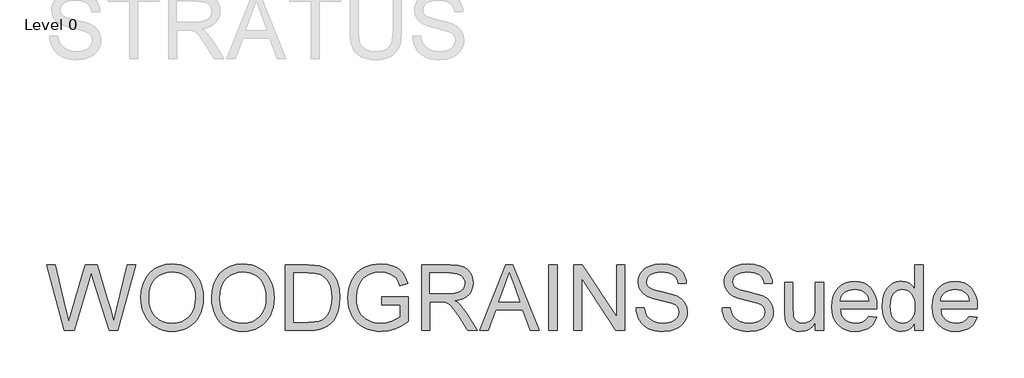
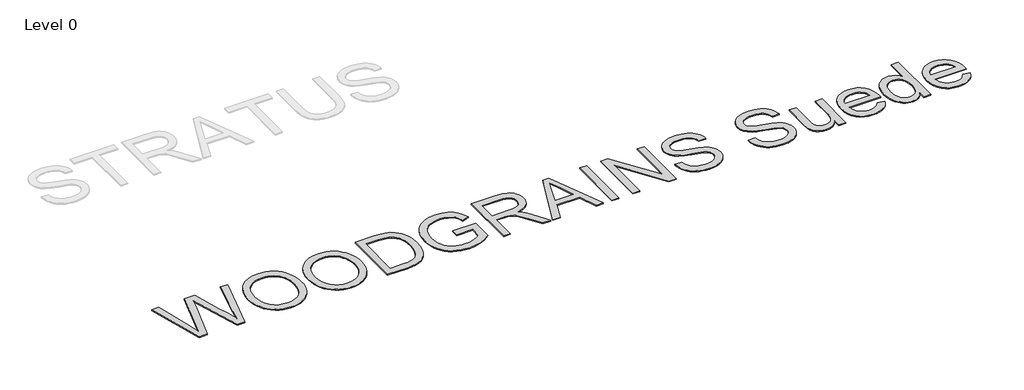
# One storey, part 4 of 7: 1 proxy.
"""IFC4 building model written with IfcOpenShell, lengths in millimetres."""

from ifc_helpers import new_model, si_unit, origin, origin_with_axes, place, context, project, spatial, polyline, outline, extrude, element, save

model = new_model("IFC4")

# Units and contexts
model_context = context("Model", 3, world=origin())
ifc_project = project(units=[si_unit("LENGTHUNIT", "METRE", prefix="MILLI")], contexts=[model_context])

# Site, building, storey
site = spatial("IfcSite", under=ifc_project)
building = spatial("IfcBuilding", under=site)
storey = spatial("IfcBuildingStorey", under=building, Name="Level 0", Elevation=0.0)

# Proxy
placement = place(None, origin())
element("IfcBuildingElementProxy", 1, Name="600mm Arial", ObjectType="600mm Arial", at=placement, inside=storey, context=model_context, shape_type="SweptSolid", body=[
    extrude(outline(polyline([(-10769.6001843, -2239.8720473), (-10933.9698597, -1637.1341864), (-10856.2731823, -1637.1341864), (-10760.9181692, -2033.2695188), (-10731.4876096, -2155.553494), (-10699.9969108, -2047.3961875), (-10580.5088387, -1637.1341864), (-10468.5255594, -1637.1341864), (-10381.7054085, -1934.5299913), (-10344.5125388, -2044.8945899), (-10317.1053302, -2155.553494), (-10288.5576874, -2036.801186), (-10192.3197574, -1637.1341864), (-10114.62308, -1637.1341864), (-10279.1399083, -2239.8720473), (-10359.6324888, -2239.8720473), (-10504.1365365, -1774.8692054), (-10524.2964699, -1709.9748215), (-10546.9580008, -1788.1129573), (-10678.659755, -2239.8720473), (-10769.6001843, -2239.8720473)])), origin_with_axes(), (0.0, 0.0, 1.0), 10.0),
    extrude(outline(polyline([(-10067.5341847, -1946.449368), (-10062.5125954, -1875.7516456), (-10047.4478277, -1813.1657211), (-10022.3398816, -1758.6915947), (-10006.0197165, -1734.4964557), (-9987.1887569, -1712.3292662), (-9944.1005782, -1675.3111405), (-9895.1814699, -1648.8696221), (-9840.431432, -1633.004711), (-9779.8504644, -1627.7164074), (-9739.3006715, -1630.1996108), (-9700.7926237, -1637.6492212), (-9664.3263209, -1650.0652386), (-9629.9017632, -1667.4476628), (-9598.4846408, -1689.2722622), (-9571.040644, -1715.0148048), (-9547.5697727, -1744.6752907), (-9528.0720269, -1778.2537198), (-9512.7497418, -1814.986737), (-9501.8052525, -1854.1109872), (-9495.2385589, -1895.6264703), (-9493.049661, -1939.5331865), (-9495.353522, -1984.0193167), (-9502.265105, -2026.0958199), (-9513.7844099, -2065.7626961), (-9529.9114369, -2103.0199451), (-9550.2645083, -2136.8834828), (-9574.4619465, -2166.3692247), (-9602.5037516, -2191.4771709), (-9634.3899235, -2212.2073213), (-9668.865065, -2228.4309173), (-9704.6737787, -2240.0192001), (-9741.8160647, -2246.9721698), (-9780.2919228, -2249.2898264), (-9821.5498886, -2246.728448), (-9860.5637742, -2239.0443128), (-9897.3335796, -2226.2374209), (-9931.8593048, -2208.3077721), (-9963.239639, -2185.9497439), (-9990.5732713, -2159.8577134), (-10013.8602016, -2130.0316806), (-10033.1004299, -2096.4716456), (-10048.1651976, -2060.5249762), (-10058.925746, -2023.5390401), (-10065.382075, -1985.5138373), (-10067.5341847, -1946.449368)]), holes=[polyline([(-9992.191952, -1947.185132), (-9988.4257601, -1997.1343099), (-9977.1271843, -2041.4732873), (-9958.2962247, -2080.2020644), (-9931.9328812, -2113.320641), (-9899.8857609, -2139.8449328), (-9864.0034708, -2158.7908556), (-9824.2860109, -2170.1584092), (-9780.7333812, -2173.9475938), (-9736.4357905, -2170.121621), (-9696.249281, -2158.6437028), (-9660.1738529, -2139.513839), (-9628.209506, -2112.7320298), (-9602.0393006, -2078.9144774), (-9583.3462967, -2038.6773842), (-9572.1304944, -1992.0207501), (-9568.3918936, -1938.9445753), (-9569.9921803, -1904.4648353), (-9574.7930403, -1872.2475695), (-9582.7944737, -1842.2927781), (-9593.9964805, -1814.6004609), (-9608.2749004, -1789.5339015), (-9625.5055734, -1767.4563832), (-9645.6884993, -1748.3679062), (-9668.8236783, -1732.2684704), (-9694.1937404, -1719.4891696), (-9721.0813157, -1710.3610976), (-9749.4864043, -1704.8842544), (-9779.409006, -1703.05864), (-9821.448721, -1706.5765115), (-9860.4534096, -1717.1301263), (-9896.4230717, -1734.7194842), (-9929.3577073, -1759.3445852), (-9956.8476894, -1792.1918489), (-9976.4833909, -1834.4476945), (-9988.2648117, -1886.1121222), (-9992.191952, -1947.185132)])]), origin_with_axes(), (0.0, 0.0, 1.0), 10.0),
    extrude(outline(polyline([(-9417.7074284, -1946.449368), (-9412.6858391, -1875.7516456), (-9397.6210714, -1813.1657211), (-9372.5131253, -1758.6915947), (-9356.1929603, -1734.4964557), (-9337.3620006, -1712.3292662), (-9294.2738219, -1675.3111405), (-9245.3547136, -1648.8696221), (-9190.6046757, -1633.004711), (-9130.0237082, -1627.7164074), (-9089.4739152, -1630.1996108), (-9050.9658674, -1637.6492212), (-9014.4995646, -1650.0652386), (-8980.0750069, -1667.4476628), (-8948.6578845, -1689.2722622), (-8921.2138877, -1715.0148048), (-8897.7430164, -1744.6752907), (-8878.2452707, -1778.2537198), (-8862.9229856, -1814.986737), (-8851.9784962, -1854.1109872), (-8845.4118026, -1895.6264703), (-8843.2229047, -1939.5331865), (-8845.5267657, -1984.0193167), (-8852.4383487, -2026.0958199), (-8863.9576537, -2065.7626961), (-8880.0846806, -2103.0199451), (-8900.437752, -2136.8834828), (-8924.6351902, -2166.3692247), (-8952.6769953, -2191.4771709), (-8984.5631673, -2212.2073213), (-9019.0383087, -2228.4309173), (-9054.8470224, -2240.0192001), (-9091.9893084, -2246.9721698), (-9130.4651665, -2249.2898264), (-9171.7231323, -2246.728448), (-9210.7370179, -2239.0443128), (-9247.5068233, -2226.2374209), (-9282.0325486, -2208.3077721), (-9313.4128827, -2185.9497439), (-9340.746515, -2159.8577134), (-9364.0334453, -2130.0316806), (-9383.2736736, -2096.4716456), (-9398.3384413, -2060.5249762), (-9409.0989897, -2023.5390401), (-9415.5553187, -1985.5138373), (-9417.7074284, -1946.449368)]), holes=[polyline([(-9342.3651958, -1947.185132), (-9338.5990038, -1997.1343099), (-9327.3004281, -2041.4732873), (-9308.4694684, -2080.2020644), (-9282.106125, -2113.320641), (-9250.0590047, -2139.8449328), (-9214.1767145, -2158.7908556), (-9174.4592546, -2170.1584092), (-9130.9066249, -2173.9475938), (-9086.6090342, -2170.121621), (-9046.4225247, -2158.6437028), (-9010.3470966, -2139.513839), (-8978.3827497, -2112.7320298), (-8952.2125443, -2078.9144774), (-8933.5195404, -2038.6773842), (-8922.3037381, -1992.0207501), (-8918.5651373, -1938.9445753), (-8920.165424, -1904.4648353), (-8924.966284, -1872.2475695), (-8932.9677174, -1842.2927781), (-8944.1697242, -1814.6004609), (-8958.4481441, -1789.5339015), (-8975.6788171, -1767.4563832), (-8995.861743, -1748.3679062), (-9018.996922, -1732.2684704), (-9044.3669841, -1719.4891696), (-9071.2545594, -1710.3610976), (-9099.659648, -1704.8842544), (-9129.5822498, -1703.05864), (-9171.6219648, -1706.5765115), (-9210.6266533, -1717.1301263), (-9246.5963154, -1734.7194842), (-9279.530951, -1759.3445852), (-9307.0209331, -1792.1918489), (-9326.6566346, -1834.4476945), (-9338.4380555, -1886.1121222), (-9342.3651958, -1947.185132)])]), origin_with_axes(), (0.0, 0.0, 1.0), 10.0),
    extrude(outline(polyline([(-8739.6273349, -2239.8720473), (-8739.6273349, -1637.1341864), (-8531.7004312, -1637.1341864), (-8469.5651622, -1639.3046902), (-8424.1317358, -1645.8162015), (-8376.0863472, -1662.5548323), (-8335.5457514, -1688.9319714), (-8313.2061172, -1710.4898563), (-8293.8647213, -1734.8436444), (-8277.5215637, -1761.9933356), (-8264.1766443, -1791.93893), (-8253.8115691, -1824.4045161), (-8246.4079439, -1859.1141823), (-8240.4850438, -1935.2657553), (-8244.4949576, -1999.9578042), (-8256.5246988, -2056.8875429), (-8274.8452222, -2105.3559958), (-8297.7274823, -2144.664187), (-8324.0678331, -2175.6950333), (-8352.7626287, -2199.3314515), (-8385.7064614, -2216.8610285), (-8424.7939234, -2229.5713515), (-8470.0985911, -2237.2968734), (-8521.6940409, -2239.8720473), (-8739.6273349, -2239.8720473)]), holes=[polyline([(-8664.2851023, -2164.5298147), (-8530.9646672, -2164.5298147), (-8475.8191561, -2161.807488), (-8433.9909733, -2153.6405077), (-8402.4266981, -2140.5071204), (-8378.07291, -2122.8855729), (-8351.8981061, -2090.272834), (-8332.2348134, -2048.058375), (-8319.9291607, -1996.058255), (-8315.8272764, -1934.0885329), (-8317.8368318, -1890.3473637), (-8323.865498, -1851.9772716), (-8333.913275, -1818.9782566), (-8347.9801628, -1791.3503188), (-8364.9257272, -1768.4680587), (-8383.609534, -1749.706077), (-8404.0315833, -1735.0643735), (-8426.191875, -1724.5429485), (-8469.528374, -1715.4930514), (-8533.0248064, -1712.476419), (-8664.2851023, -1712.476419), (-8664.2851023, -2164.5298147)])]), origin_with_axes(), (0.0, 0.0, 1.0), 10.0),
    extrude(outline(polyline([(-7854.3561017, -2004.4275704), (-7854.3561017, -1929.0853378), (-7609.4938457, -1929.0853378), (-7609.4938457, -2154.3762716), (-7668.9987584, -2195.7629961), (-7730.3798693, -2225.4510731), (-7793.4900256, -2243.3301381), (-7858.1820744, -2249.2898264), (-7901.4587926, -2246.9215861), (-7942.7029628, -2239.816865), (-7981.914585, -2227.9756633), (-8019.0936591, -2211.3979809), (-8053.0399702, -2190.3321382), (-8082.5533033, -2165.0264554), (-8107.6336583, -2135.4809327), (-8128.2810353, -2101.6955699), (-8144.4080622, -2064.7510206), (-8155.9273672, -2025.7279379), (-8162.8389502, -1984.626322), (-8165.1428112, -1941.4461728), (-8162.8481473, -1898.2614251), (-8155.9641554, -1856.5574025), (-8144.4908357, -1816.3341048), (-8128.4281881, -1777.5915322), (-8108.0613211, -1742.0311388), (-8083.6753434, -1711.354379), (-8055.2702548, -1685.5612526), (-8022.8460555, -1664.6517597), (-7987.1063196, -1648.492543), (-7948.7546216, -1636.9502454), (-7907.7909615, -1630.0248669), (-7864.2153391, -1627.7164074), (-7802.1536466, -1633.0690904), (-7746.3459479, -1649.1271395), (-7721.4265412, -1660.8809692), (-7699.349023, -1674.7317263), (-7680.1133932, -1690.6794108), (-7663.7196518, -1708.7240227), (-7637.3609068, -1752.7411034), (-7618.1758608, -1808.4200434), (-7687.6319815, -1827.9913655), (-7703.1382076, -1788.2785041), (-7721.9921598, -1758.3145156), (-7746.9345591, -1735.7265611), (-7780.7061262, -1718.1418018), (-7820.9708106, -1706.8294304), (-7865.3925615, -1703.05864), (-7917.3926815, -1707.123736), (-7961.8512207, -1719.3190242), (-7998.602632, -1738.1177941), (-8027.4813686, -1761.9933356), (-8049.6462588, -1789.7132439), (-8066.2561309, -1820.0451144), (-8083.9144667, -1876.9196709), (-8089.8005786, -1938.3559641), (-8088.0301465, -1975.9764966), (-8082.7188502, -2010.4056528), (-8073.8666897, -2041.6434328), (-8061.473665, -2069.6898364), (-8045.7007244, -2094.4390976), (-8026.7088164, -2115.7854504), (-8004.497941, -2133.7288947), (-7979.068098, -2148.2694305), (-7951.6103056, -2159.503627), (-7923.3155817, -2167.528053), (-7894.1839262, -2172.3427086), (-7864.2153391, -2173.9475938), (-7812.0312781, -2169.1099456), (-7761.1348041, -2154.5970008), (-7716.9337824, -2134.6026144), (-7684.8360783, -2113.320641), (-7684.8360783, -2004.4275704), (-7854.3561017, -2004.4275704)])), origin_with_axes(), (0.0, 0.0, 1.0), 10.0),
    extrude(outline(polyline([(-7487.0627177, -2239.8720473), (-7487.0627177, -1637.1341864), (-7227.3380291, -1637.1341864), (-7157.5324205, -1641.1992825), (-7106.7463111, -1653.3945706), (-7087.1473978, -1663.0882612), (-7069.6270178, -1675.9089487), (-7054.185171, -1691.8566332), (-7040.8218575, -1710.9313147), (-7030.0383166, -1732.107522), (-7022.3357873, -1754.3597842), (-7017.7142697, -1777.6881012), (-7016.1737639, -1802.0924731), (-7018.7259452, -1833.049743), (-7026.3824892, -1861.4686271), (-7039.1433959, -1887.3491255), (-7057.0086653, -1910.691238), (-7080.2082237, -1930.7500038), (-7108.9719971, -1946.7804618), (-7143.2999858, -1958.7826119), (-7183.1921897, -1966.7564541), (-7158.360155, -1982.9800501), (-7140.3707254, -1998.9829169), (-7109.505426, -2035.5871754), (-7079.3023142, -2076.5324415), (-6978.7969532, -2239.8720473), (-7066.352868, -2239.8720473), (-7144.7853094, -2114.9393218), (-7201.4391366, -2032.2394493), (-7222.5003809, -2008.1247845), (-7241.2439685, -1993.1703814), (-7277.0756748, -1978.8229836), (-7320.7800559, -1976.1742332), (-7411.7204851, -1976.1742332), (-7411.7204851, -2239.8720473), (-7487.0627177, -2239.8720473)]), holes=[polyline([(-7411.7204851, -1900.8320006), (-7243.0833785, -1900.8320006), (-7194.6517138, -1898.1648561), (-7157.072568, -1890.1634227), (-7128.7824426, -1876.2942715), (-7108.2178391, -1856.0239736), (-7095.6914571, -1831.5046386), (-7091.5159965, -1804.8883762), (-7093.5071578, -1785.6205567), (-7099.4806417, -1768.1369649), (-7109.4364482, -1752.4376008), (-7123.3745773, -1738.5224643), (-7141.6169257, -1727.1273195), (-7164.4853902, -1718.9879304), (-7191.9799708, -1714.1042969), (-7224.1006675, -1712.476419), (-7411.7204851, -1712.476419), (-7411.7204851, -1900.8320006)])]), origin_with_axes(), (0.0, 0.0, 1.0), 10.0),
    extrude(outline(polyline([(-6954.5167415, -2239.8720473), (-6713.9219166, -1637.1341864), (-6649.7632967, -1637.1341864), (-6409.1684718, -2239.8720473), (-6488.7781356, -2239.8720473), (-6557.7927979, -2051.5164658), (-6806.0395682, -2051.5164658), (-6874.9070777, -2239.8720473), (-6954.5167415, -2239.8720473)]), holes=[polyline([(-6778.3748422, -1976.1742332), (-6585.3103711, -1976.1742332), (-6639.6097536, -1827.9913655), (-6681.8426066, -1712.476419), (-6719.3665702, -1815.0419193), (-6778.3748422, -1976.1742332)])]), origin_with_axes(), (0.0, 0.0, 1.0), 10.0),
    extrude(outline(polyline([(-6319.2581122, -2239.8720473), (-6319.2581122, -1637.1341864), (-6243.9158796, -1637.1341864), (-6243.9158796, -2239.8720473), (-6319.2581122, -2239.8720473)])), origin_with_axes(), (0.0, 0.0, 1.0), 10.0),
    extrude(outline(polyline([(-6093.2314144, -2239.8720473), (-6093.2314144, -1637.1341864), (-6012.591681, -1637.1341864), (-5697.6846932, -2114.6450162), (-5697.6846932, -1637.1341864), (-5622.3424605, -1637.1341864), (-5622.3424605, -2239.8720473), (-5702.9821939, -2239.8720473), (-6017.8891818, -1762.2140648), (-6017.8891818, -2239.8720473), (-6093.2314144, -2239.8720473)])), origin_with_axes(), (0.0, 0.0, 1.0), 10.0),
    extrude(outline(polyline([(-5518.7468907, -2032.6809076), (-5443.4046581, -2032.6809076), (-5434.7594312, -2074.4906964), (-5419.1244464, -2108.0967167), (-5394.7338701, -2134.7681613), (-5359.8218688, -2155.7742232), (-5317.1475573, -2169.4042512), (-5269.4700508, -2173.9475938), (-5227.4947151, -2170.5078971), (-5190.7433038, -2160.1888072), (-5160.9632563, -2143.8548466), (-5139.9020121, -2122.3705381), (-5127.3756301, -2097.7040503), (-5123.2001695, -2071.8235519), (-5126.3271664, -2046.6052412), (-5135.7081573, -2024.8082329), (-5154.7644447, -2006.2117981), (-5186.917331, -1990.5952074), (-5296.619742, -1961.8268354), (-5368.6326426, -1942.7889421), (-5414.7098625, -1924.6707539), (-5452.2154319, -1899.3236844), (-5478.794906, -1868.6055378), (-5494.6322259, -1833.1785017), (-5499.9113325, -1793.7047636), (-5498.2788562, -1771.2685604), (-5493.3814271, -1749.5773183), (-5485.2190454, -1728.6310372), (-5473.7917109, -1708.4297171), (-5459.2281824, -1689.796494), (-5441.6572186, -1673.554504), (-5421.0788195, -1659.7037468), (-5397.4929851, -1648.2442227), (-5344.4811896, -1632.8483612), (-5285.8040114, -1627.7164074), (-5222.2340026, -1633.0874845), (-5166.6102449, -1649.2007159), (-5142.2748509, -1661.202866), (-5120.9193011, -1675.7250077), (-5102.5435955, -1692.7671412), (-5087.147734, -1712.3292662), (-5074.8512783, -1733.8411659), (-5065.77379, -1756.7326231), (-5059.9152693, -1781.0036377), (-5057.2757159, -1806.6542098), (-5132.6179486, -1806.6542098), (-5137.6579319, -1782.6131214), (-5146.4503116, -1761.69903), (-5158.9950876, -1743.9119355), (-5175.29226, -1729.251838), (-5195.6453314, -1717.7923139), (-5220.3578044, -1709.6069395), (-5249.4296791, -1704.6957148), (-5282.8609554, -1703.05864), (-5317.3590895, -1704.6773207), (-5346.8356344, -1709.5333631), (-5371.29059, -1717.626767), (-5390.7239564, -1728.9575324), (-5405.5312067, -1742.5783633), (-5416.107814, -1757.5419635), (-5422.4537785, -1773.8483329), (-5424.5690999, -1791.4974716), (-5423.0699808, -1806.681801), (-5418.5726234, -1820.4497846), (-5411.0770278, -1832.8014226), (-5400.5831938, -1843.7367149), (-5384.0652923, -1854.0925931), (-5358.0560352, -1864.5588358), (-5277.5634547, -1885.8224152), (-5194.4957001, -1906.0191367), (-5144.2430196, -1923.6406843), (-5101.2927967, -1950.9743165), (-5084.6875231, -1967.0415627), (-5071.3288082, -1984.7090955), (-5061.060302, -2003.8849445), (-5053.7256547, -2024.4771392), (-5047.8579369, -2069.9105656), (-5049.5455955, -2093.4780059), (-5054.6085715, -2116.3556674), (-5063.0468647, -2138.5435503), (-5074.8604753, -2160.0416544), (-5089.8424696, -2180.0176467), (-5107.7859139, -2197.6391943), (-5128.6908083, -2212.9062971), (-5152.5571527, -2225.8189551), (-5178.6905699, -2236.0874613), (-5206.3966827, -2243.4221086), (-5266.5269948, -2249.2898264), (-5305.0672323, -2247.7079338), (-5340.3425171, -2242.9622561), (-5372.3528492, -2235.0527932), (-5401.0982286, -2223.9795451), (-5426.7533993, -2209.7241178), (-5449.4931051, -2192.2681172), (-5469.3173461, -2171.6115431), (-5486.2261223, -2147.7543957), (-5499.8469532, -2121.4692272), (-5509.8073582, -2093.5285896), (-5516.1073374, -2063.9324831), (-5518.7468907, -2032.6809076)])), origin_with_axes(), (0.0, 0.0, 1.0), 10.0),
    extrude(outline(polyline([(-4727.6534483, -2032.6809076), (-4652.3112157, -2032.6809076), (-4643.6659888, -2074.4906964), (-4628.031004, -2108.0967167), (-4603.6404277, -2134.7681613), (-4568.7284264, -2155.7742232), (-4526.0541149, -2169.4042512), (-4478.3766083, -2173.9475938), (-4436.4012727, -2170.5078971), (-4399.6498614, -2160.1888072), (-4369.8698139, -2143.8548466), (-4348.8085696, -2122.3705381), (-4336.2821877, -2097.7040503), (-4332.1067271, -2071.8235519), (-4335.233724, -2046.6052412), (-4344.6147149, -2024.8082329), (-4363.6710022, -2006.2117981), (-4395.8238886, -1990.5952074), (-4505.5262996, -1961.8268354), (-4577.5392001, -1942.7889421), (-4623.61642, -1924.6707539), (-4661.1219894, -1899.3236844), (-4687.7014636, -1868.6055378), (-4703.5387835, -1833.1785017), (-4708.8178901, -1793.7047636), (-4707.1854138, -1771.2685604), (-4702.2879847, -1749.5773183), (-4694.1256029, -1728.6310372), (-4682.6982685, -1708.4297171), (-4668.13474, -1689.796494), (-4650.5637762, -1673.554504), (-4629.9853771, -1659.7037468), (-4606.3995427, -1648.2442227), (-4553.3877472, -1632.8483612), (-4494.7105689, -1627.7164074), (-4431.1405602, -1633.0874845), (-4375.5168025, -1649.2007159), (-4351.1814085, -1661.202866), (-4329.8258587, -1675.7250077), (-4311.450153, -1692.7671412), (-4296.0542915, -1712.3292662), (-4283.7578358, -1733.8411659), (-4274.6803476, -1756.7326231), (-4268.8218268, -1781.0036377), (-4266.1822735, -1806.6542098), (-4341.5245061, -1806.6542098), (-4346.5644895, -1782.6131214), (-4355.3568692, -1761.69903), (-4367.9016452, -1743.9119355), (-4384.1988176, -1729.251838), (-4404.551889, -1717.7923139), (-4429.264362, -1709.6069395), (-4458.3362367, -1704.6957148), (-4491.767513, -1703.05864), (-4526.2656471, -1704.6773207), (-4555.7421919, -1709.5333631), (-4580.1971476, -1717.626767), (-4599.6305139, -1728.9575324), (-4614.4377643, -1742.5783633), (-4625.0143716, -1757.5419635), (-4631.360336, -1773.8483329), (-4633.4756575, -1791.4974716), (-4631.9765384, -1806.681801), (-4627.479181, -1820.4497846), (-4619.9835853, -1832.8014226), (-4609.4897514, -1843.7367149), (-4592.9718498, -1854.0925931), (-4566.9625928, -1864.5588358), (-4486.4700122, -1885.8224152), (-4403.4022577, -1906.0191367), (-4353.1495772, -1923.6406843), (-4310.1993542, -1950.9743165), (-4293.5940807, -1967.0415627), (-4280.2353657, -1984.7090955), (-4269.9668595, -2003.8849445), (-4262.6322123, -2024.4771392), (-4256.7644944, -2069.9105656), (-4258.4521531, -2093.4780059), (-4263.5151291, -2116.3556674), (-4271.9534223, -2138.5435503), (-4283.7670329, -2160.0416544), (-4298.7490271, -2180.0176467), (-4316.6924715, -2197.6391943), (-4337.5973658, -2212.9062971), (-4361.4637103, -2225.8189551), (-4387.5971275, -2236.0874613), (-4415.3032403, -2243.4221086), (-4475.4335524, -2249.2898264), (-4513.9737899, -2247.7079338), (-4549.2490747, -2242.9622561), (-4581.2594068, -2235.0527932), (-4610.0047862, -2223.9795451), (-4635.6599569, -2209.7241178), (-4658.3996627, -2192.2681172), (-4678.2239037, -2171.6115431), (-4695.1326799, -2147.7543957), (-4708.7535108, -2121.4692272), (-4718.7139158, -2093.5285896), (-4725.013895, -2063.9324831), (-4727.6534483, -2032.6809076)])), origin_with_axes(), (0.0, 0.0, 1.0), 10.0),
    extrude(outline(polyline([(-3870.6355523, -2239.8720473), (-3870.6355523, -2163.7940507), (-3897.8956081, -2201.1984526), (-3929.6438243, -2227.9158825), (-3965.8802009, -2243.9463404), (-4006.6047377, -2249.2898264), (-4043.3009667, -2245.5374301), (-4077.45881, -2234.280241), (-4106.1168174, -2217.3576692), (-4126.313539, -2196.6091247), (-4139.9067787, -2171.409208), (-4148.7543407, -2141.1325198), (-4153.1689246, -2071.0877879), (-4153.1689246, -1797.2364307), (-4077.826692, -1797.2364307), (-4077.826692, -2035.6239636), (-4076.6862578, -2083.3014702), (-4073.2649552, -2112.4377242), (-4062.2836777, -2138.0607052), (-4043.4665136, -2157.5400568), (-4018.0642619, -2169.8457095), (-3987.3277212, -2173.9475938), (-3954.8253469, -2169.753739), (-3924.4199, -2157.1721748), (-3899.348742, -2137.3617294), (-3882.8492345, -2111.481231), (-3873.6889729, -2076.0358008), (-3870.6355523, -2027.5305597), (-3870.6355523, -1797.2364307), (-3795.2933197, -1797.2364307), (-3795.2933197, -2239.8720473), (-3870.6355523, -2239.8720473)])), origin_with_axes(), (0.0, 0.0, 1.0), 10.0),
    extrude(outline(polyline([(-3381.7939571, -2108.0231403), (-3307.9232525, -2117.4409193), (-3319.2494194, -2147.0278288), (-3334.5395148, -2173.1014652), (-3353.7935388, -2195.6618286), (-3377.0114912, -2214.7089189), (-3403.9542488, -2229.8380659), (-3434.3826883, -2240.6445995), (-3468.2968098, -2247.1285197), (-3505.6966131, -2249.2898264), (-3552.4452176, -2245.5604227), (-3594.0986565, -2234.3722115), (-3630.6569298, -2215.7251929), (-3662.1200374, -2189.6193668), (-3687.4211217, -2156.7813002), (-3705.4933247, -2117.93756), (-3716.3366465, -2073.0881463), (-3719.9510871, -2022.233059), (-3716.2998583, -1969.6535248), (-3705.3461719, -1923.3095905), (-3687.0900279, -1883.201256), (-3661.5314262, -1849.3285212), (-3630.1510921, -1822.4179533), (-3594.4297503, -1803.1961191), (-3554.3674011, -1791.6630185), (-3509.9640442, -1787.8186517), (-3466.9908287, -1791.6538215), (-3428.1286944, -1803.1593309), (-3393.3776414, -1822.3351799), (-3362.7376698, -1849.1813685), (-3337.7262926, -1882.9805268), (-3319.8610232, -1923.0152849), (-3309.1418616, -1969.2856428), (-3305.5688077, -2021.7916006), (-3306.0102661, -2042.0986867), (-3644.6088545, -2042.0986867), (-3640.2448543, -2072.1638428), (-3631.5674377, -2098.4949966), (-3618.5766048, -2121.0921481), (-3601.2723554, -2139.9552974), (-3580.6111829, -2154.8269271), (-3557.5495803, -2165.4495197), (-3532.0875477, -2171.8230753), (-3504.2250851, -2173.9475938), (-3464.1259476, -2170.0112564), (-3430.3543805, -2158.2022444), (-3402.9103836, -2137.7847937), (-3381.7939571, -2108.0231403)]), holes=[polyline([(-3644.6088545, -1966.7564541), (-3380.9110403, -1966.7564541), (-3391.1013716, -1926.9516222), (-3399.8661601, -1911.2982433), (-3411.0773639, -1898.4775558), (-3431.6235734, -1883.026512), (-3455.0024742, -1871.9900522), (-3481.2140663, -1865.3681762), (-3510.2583498, -1863.1608843), (-3536.750452, -1864.9221193), (-3561.0444593, -1870.2058245), (-3583.1403716, -1879.0119997), (-3603.038189, -1891.3406451), (-3619.7354331, -1906.6215435), (-3632.2296253, -1924.2844778), (-3640.5207658, -1944.329448), (-3644.6088545, -1966.7564541)])]), origin_with_axes(), (0.0, 0.0, 1.0), 10.0),
    extrude(outline(polyline([(-2957.1109819, -2239.8720473), (-2957.1109819, -2168.7972459), (-2979.6529511, -2204.0127498), (-3006.9589922, -2229.1666813), (-3039.0291052, -2244.2590401), (-3075.8632899, -2249.2898264), (-3100.7321128, -2247.4688105), (-3124.5708661, -2242.0057629), (-3147.3795498, -2232.9006835), (-3169.1581639, -2220.1535724), (-3189.2261267, -2204.1461071), (-3206.9028566, -2185.2599651), (-3222.1883535, -2163.4951466), (-3235.0826174, -2138.8516515), (-3245.318934, -2111.7985292), (-3252.6305886, -2082.8048295), (-3258.4799123, -2018.9956974), (-3253.0904411, -1955.9775117), (-3236.9220274, -1899.066167), (-3224.8003157, -1873.7099005), (-3209.9930654, -1851.499025), (-3192.5002765, -1832.4335406), (-3172.3219491, -1816.5134473), (-3150.1708544, -1803.9594742), (-3126.759764, -1794.9923506), (-3102.0886777, -1789.6120764), (-3076.1575955, -1787.8186517), (-3039.2958196, -1792.9506055), (-3006.7014748, -1808.346467), (-2979.073537, -1831.946097), (-2957.1109819, -1861.6893563), (-2957.1109819, -1637.1341864), (-2881.7687493, -1637.1341864), (-2881.7687493, -2239.8720473), (-2957.1109819, -2239.8720473)]), holes=[polyline([(-3183.1376797, -2018.7013918), (-3181.0131612, -2055.2366725), (-3174.6396056, -2086.8515314), (-3164.017013, -2113.5459687), (-3149.1453834, -2135.3199843), (-3131.38588, -2152.2195635), (-3112.0996665, -2164.2906914), (-3091.2867426, -2171.5333682), (-3068.9471084, -2173.9475938), (-3046.5017082, -2171.6437328), (-3025.8129445, -2164.7321498), (-3006.8808173, -2153.2128448), (-2989.7053267, -2137.0858179), (-2975.4453008, -2116.2223102), (-2965.2595681, -2090.4935632), (-2959.1481284, -2059.8995768), (-2957.1109819, -2024.440351), (-2959.1849166, -1985.5644211), (-2965.4067209, -1952.2251153), (-2975.7763946, -1924.4224335), (-2990.2939378, -1902.1563758), (-3007.8465075, -1885.0958482), (-3027.3212607, -1872.9097571), (-3048.7181972, -1865.5981025), (-3072.0373172, -1863.1608843), (-3094.8184097, -1865.5015335), (-3115.6313336, -1872.523481), (-3134.4760888, -1884.226727), (-3151.3526753, -1900.6112714), (-3165.2586148, -1922.0357991), (-3175.1914286, -1948.858995), (-3181.1511169, -1981.0808593), (-3183.1376797, -2018.7013918)])]), origin_with_axes(), (0.0, 0.0, 1.0), 10.0),
    extrude(outline(polyline([(-2458.8516076, -2108.0231403), (-2384.980903, -2117.4409193), (-2396.3070699, -2147.0278288), (-2411.5971653, -2173.1014652), (-2430.8511893, -2195.6618286), (-2454.0691417, -2214.7089189), (-2481.0118993, -2229.8380659), (-2511.4403388, -2240.6445995), (-2545.3544603, -2247.1285197), (-2582.7542636, -2249.2898264), (-2629.5028681, -2245.5604227), (-2671.156307, -2234.3722115), (-2707.7145803, -2215.7251929), (-2739.1776879, -2189.6193668), (-2764.4787722, -2156.7813002), (-2782.5509752, -2117.93756), (-2793.394297, -2073.0881463), (-2797.0087376, -2022.233059), (-2793.3575088, -1969.6535248), (-2782.4038224, -1923.3095905), (-2764.1476784, -1883.201256), (-2738.5890767, -1849.3285212), (-2707.2087426, -1822.4179533), (-2671.4874008, -1803.1961191), (-2631.4250516, -1791.6630185), (-2587.0216947, -1787.8186517), (-2544.0484792, -1791.6538215), (-2505.1863449, -1803.1593309), (-2470.4352919, -1822.3351799), (-2439.7953203, -1849.1813685), (-2414.7839431, -1882.9805268), (-2396.9186737, -1923.0152849), (-2386.1995121, -1969.2856428), (-2382.6264582, -2021.7916006), (-2383.0679166, -2042.0986867), (-2721.666505, -2042.0986867), (-2717.3025048, -2072.1638428), (-2708.6250882, -2098.4949966), (-2695.6342553, -2121.0921481), (-2678.3300059, -2139.9552974), (-2657.6688334, -2154.8269271), (-2634.6072308, -2165.4495197), (-2609.1451982, -2171.8230753), (-2581.2827356, -2173.9475938), (-2541.1835981, -2170.0112564), (-2507.412031, -2158.2022444), (-2479.9680341, -2137.7847937), (-2458.8516076, -2108.0231403)]), holes=[polyline([(-2721.666505, -1966.7564541), (-2457.9686908, -1966.7564541), (-2468.1590221, -1926.9516222), (-2476.9238106, -1911.2982433), (-2488.1350144, -1898.4775558), (-2508.6812239, -1883.026512), (-2532.0601247, -1871.9900522), (-2558.2717168, -1865.3681762), (-2587.3160003, -1863.1608843), (-2613.8081025, -1864.9221193), (-2638.1021098, -1870.2058245), (-2660.1980221, -1879.0119997), (-2680.0958395, -1891.3406451), (-2696.7930836, -1906.6215435), (-2709.2872758, -1924.2844778), (-2717.5784163, -1944.329448), (-2721.666505, -1966.7564541)])]), origin_with_axes(), (0.0, 0.0, 1.0), 10.0),
])

save(model, "model.ifc")
